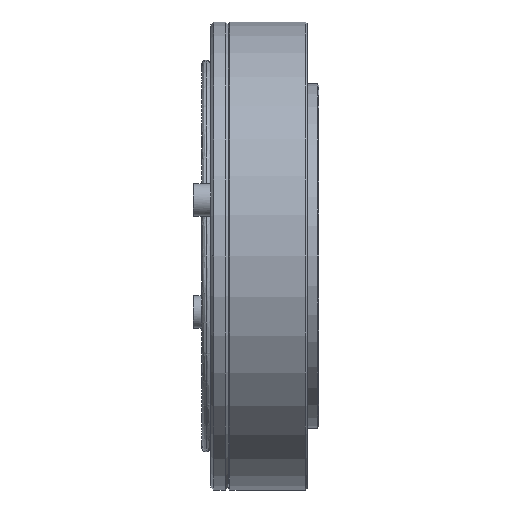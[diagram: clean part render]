
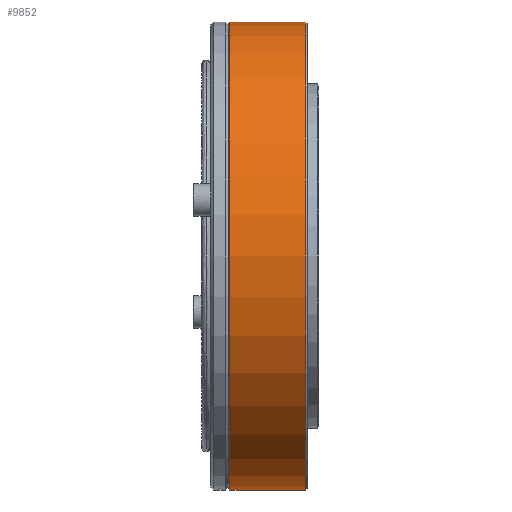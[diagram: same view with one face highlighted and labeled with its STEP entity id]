
A CAD part, front view. The second image highlights one B-rep face of the part: STEP entity #9852.
In plain terms, the highlighted cylindrical face has radius 40 mm (diameter 80 mm), a partial arc.
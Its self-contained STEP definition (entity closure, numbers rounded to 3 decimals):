
#151 = CARTESIAN_POINT ( 'NONE',  ( 3., 0., 40. ) ) ;
#443 = ORIENTED_EDGE ( 'NONE', *, *, #11653, .T. ) ;
#1564 = DIRECTION ( 'NONE',  ( -1., 0., 0. ) ) ;
#3242 = CARTESIAN_POINT ( 'NONE',  ( 16.2, 0., -40. ) ) ;
#3413 = DIRECTION ( 'NONE',  ( 0., 0., 1. ) ) ;
#3603 = CARTESIAN_POINT ( 'NONE',  ( 3.3, 0., 40. ) ) ;
#3692 = VERTEX_POINT ( 'NONE', #5567 ) ;
#3721 = FACE_OUTER_BOUND ( 'NONE', #12167, .T. ) ;
#3878 = CARTESIAN_POINT ( 'NONE',  ( 16.2, 0., 40. ) ) ;
#3892 = EDGE_CURVE ( 'NONE', #8001, #15753, #17100, .T. ) ;
#4009 = DIRECTION ( 'NONE',  ( 0., 0., 1. ) ) ;
#4135 = AXIS2_PLACEMENT_3D ( 'NONE', #9756, #14284, #4009 ) ;
#4247 = EDGE_CURVE ( 'NONE', #10749, #8001, #8850, .T. ) ;
#4263 = AXIS2_PLACEMENT_3D ( 'NONE', #8348, #5514, #5257 ) ;
#4592 = CIRCLE ( 'NONE', #13352, 40. ) ;
#4632 = ORIENTED_EDGE ( 'NONE', *, *, #4247, .T. ) ;
#5076 = CARTESIAN_POINT ( 'NONE',  ( 3.3, 0., 0. ) ) ;
#5257 = DIRECTION ( 'NONE',  ( 0., 0., 1. ) ) ;
#5514 = DIRECTION ( 'NONE',  ( -1., 0., 0. ) ) ;
#5567 = CARTESIAN_POINT ( 'NONE',  ( 3.3, 0., -40. ) ) ;
#8001 = VERTEX_POINT ( 'NONE', #3878 ) ;
#8075 = CYLINDRICAL_SURFACE ( 'NONE', #4263, 40. ) ;
#8348 = CARTESIAN_POINT ( 'NONE',  ( 3., 0., 0. ) ) ;
#8850 = CIRCLE ( 'NONE', #4135, 40. ) ;
#9091 = ORIENTED_EDGE ( 'NONE', *, *, #13679, .F. ) ;
#9554 = DIRECTION ( 'NONE',  ( 1., 0., 0. ) ) ;
#9756 = CARTESIAN_POINT ( 'NONE',  ( 16.2, 0., 0. ) ) ;
#9852 = ADVANCED_FACE ( 'NONE', ( #3721 ), #8075, .T. ) ;
#10672 = VECTOR ( 'NONE', #1564, 1000. ) ;
#10749 = VERTEX_POINT ( 'NONE', #3242 ) ;
#11653 = EDGE_CURVE ( 'NONE', #15753, #3692, #4592, .T. ) ;
#12167 = EDGE_LOOP ( 'NONE', ( #9091, #4632, #17576, #443 ) ) ;
#13290 = CARTESIAN_POINT ( 'NONE',  ( 3., 0., -40. ) ) ;
#13352 = AXIS2_PLACEMENT_3D ( 'NONE', #5076, #9554, #3413 ) ;
#13679 = EDGE_CURVE ( 'NONE', #10749, #3692, #17740, .T. ) ;
#14284 = DIRECTION ( 'NONE',  ( -1., 0., 0. ) ) ;
#14668 = DIRECTION ( 'NONE',  ( -1., 0., 0. ) ) ;
#15696 = VECTOR ( 'NONE', #14668, 1000. ) ;
#15753 = VERTEX_POINT ( 'NONE', #3603 ) ;
#17100 = LINE ( 'NONE', #151, #15696 ) ;
#17576 = ORIENTED_EDGE ( 'NONE', *, *, #3892, .T. ) ;
#17740 = LINE ( 'NONE', #13290, #10672 ) ;
